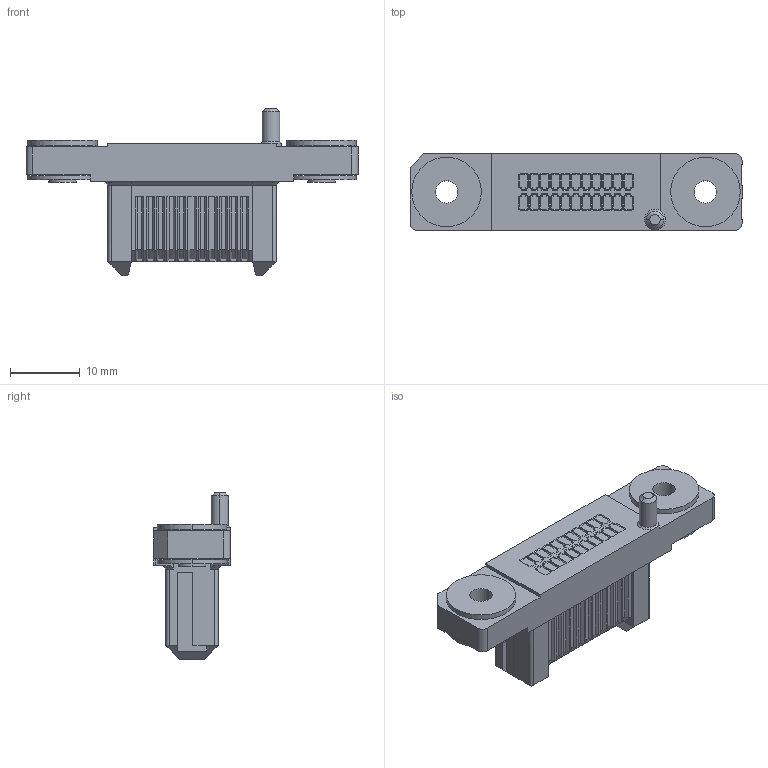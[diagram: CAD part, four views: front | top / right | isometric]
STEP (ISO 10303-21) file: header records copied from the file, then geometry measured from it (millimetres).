
FILE_DESCRIPTION(('CoCreate Modeling STEP Export'),'2;1');
FILE_NAME('P3C789_FAS01-022.stp','2017-07-28T14:57:46',(''),(''),'CoCreate Modeling STEP processor for AP214 (Solid Model)','CoCreate Modeling 17.0B 09-Oct-2010 (C) Parametric Technology GmbH','');
FILE_SCHEMA(('AUTOMOTIVE_DESIGN { 1 0 10303 214 1 1 1 1 }'));
Length unit declared in the file: millimetre
Products named in the file (2): FAS01-022
Assembly tree (1 placements, depth 2):
  FAS01-022
    FAS01-022
Bounding box: 47.7 x 11 x 24 mm (x, y, z)
Volume: 4429.8 mm3; surface area: 3250.1 mm2
Topology: 1 solids, 1 shells, 682 faces, 1744 edges, 1096 vertices
Faces by surface type: plane 640, cylinder 34, cone 8
Entity records: 19914 total; most frequent: CARTESIAN_POINT 3494, ORIENTED_EDGE 3488, DIRECTION 3135, EDGE_CURVE 1744, VECTOR 1661, LINE 1661, VERTEX_POINT 1096, AXIS2_PLACEMENT_3D 737
